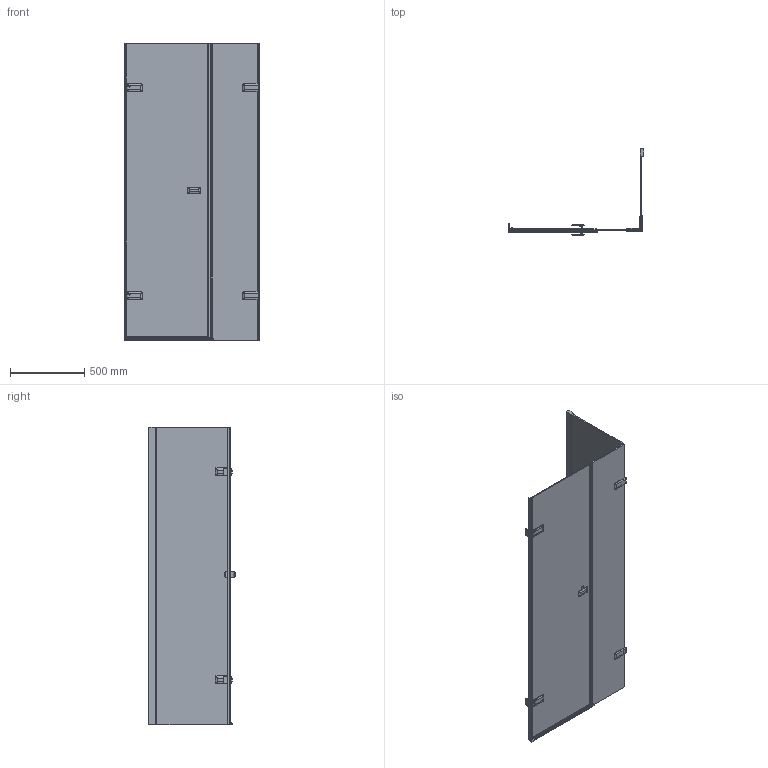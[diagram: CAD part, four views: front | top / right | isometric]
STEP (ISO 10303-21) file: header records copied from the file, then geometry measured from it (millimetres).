
FILE_DESCRIPTION(/* description */ (''),/* implementation_level */ '2;1');
FILE_NAME(/* name */ 'E:\Работа\Сергей\Душевые кабинки\! Работа\36\!!!!\TREND SQUARE GK-883PGS1\TREND SQUARE GK-883PGS1 левая модель\TREND SQUARE GK-883PGS1 ЛЕВАЯ-3D.stp',/* time_stamp */ '2018-02-16T06:40:12+03:00',/* author */ ('PC'),/* organization */ (''),/* preprocessor_version */ 'ST-DEVELOPER v15.2',/* originating_system */ 'Autodesk Inventor 2014',/* authorisation */ '');
FILE_SCHEMA (('AUTOMOTIVE_DESIGN { 1 0 10303 214 3 1 1 }'));
Length unit declared in the file: millimetre
Products named in the file (1): TREND SQUARE GK-883PGS1 ЛЕВАЯ-3
D
Bounding box: 912.8 x 582.74 x 2001 mm (x, y, z)
Volume: 23174078.9 mm3; surface area: 6213783 mm2
Topology: 3 solids, 3 shells, 910 faces, 2481 edges, 1631 vertices
Faces by surface type: plane 544, cylinder 246, bspline 74, torus 37, sphere 9
Full cylindrical faces by diameter (mm): 12 x2
Entity records: 32258 total; most frequent: CARTESIAN_POINT 8830, ORIENTED_EDGE 4672, DIRECTION 4571, EDGE_CURVE 2336, LINE 1703, VECTOR 1703, VERTEX_POINT 1443, AXIS2_PLACEMENT_3D 1434
